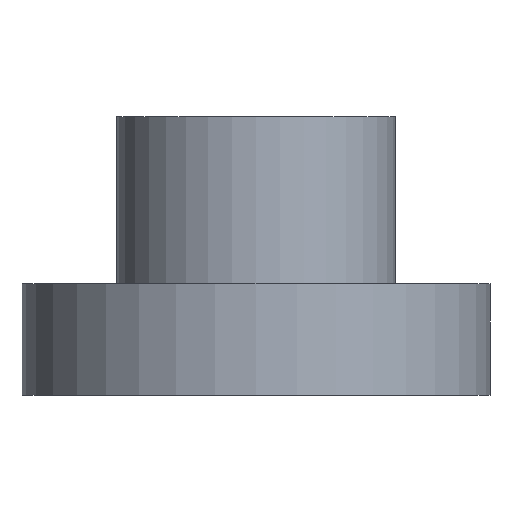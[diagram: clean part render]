
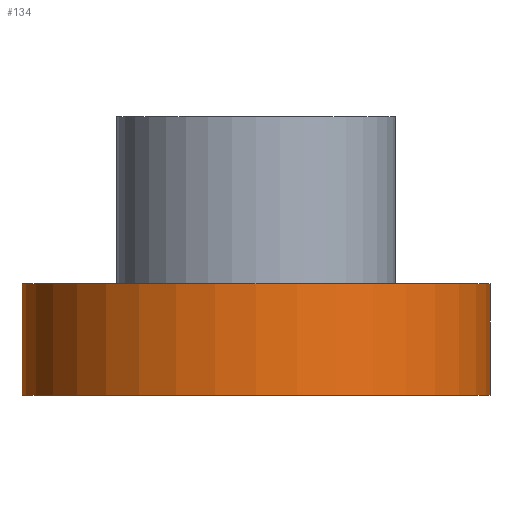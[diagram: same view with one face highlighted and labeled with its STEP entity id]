
A CAD part, front view. The second image highlights one B-rep face of the part: STEP entity #134.
In plain terms, the highlighted cylindrical face has radius 21 mm (diameter 42 mm), a partial arc.
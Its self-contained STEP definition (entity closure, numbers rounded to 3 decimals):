
#45 = PLANE('',#46);
#46 = AXIS2_PLACEMENT_3D('',#47,#48,#49);
#47 = CARTESIAN_POINT('',(13.,0.,0.));
#48 = DIRECTION('',(0.,0.,-1.));
#49 = DIRECTION('',(1.,0.,0.));
#134 = ADVANCED_FACE('',(#135),#149,.T.);
#135 = FACE_BOUND('',#136,.T.);
#136 = EDGE_LOOP('',(#137,#172,#205,#228));
#137 = ORIENTED_EDGE('',*,*,#138,.F.);
#138 = EDGE_CURVE('',#139,#141,#143,.T.);
#139 = VERTEX_POINT('',#140);
#140 = CARTESIAN_POINT('',(21.,0.,10.));
#141 = VERTEX_POINT('',#142);
#142 = CARTESIAN_POINT('',(21.,0.,0.));
#143 = SURFACE_CURVE('',#144,(#148,#160),.PCURVE_S1.);
#144 = LINE('',#145,#146);
#145 = CARTESIAN_POINT('',(21.,0.,5.));
#146 = VECTOR('',#147,1.);
#147 = DIRECTION('',(0.,0.,-1.));
#148 = PCURVE('',#149,#154);
#149 = CYLINDRICAL_SURFACE('',#150,21.);
#150 = AXIS2_PLACEMENT_3D('',#151,#152,#153);
#151 = CARTESIAN_POINT('',(0.,0.,5.));
#152 = DIRECTION('',(0.,0.,-1.));
#153 = DIRECTION('',(1.,0.,0.));
#154 = DEFINITIONAL_REPRESENTATION('',(#155),#159);
#155 = LINE('',#156,#157);
#156 = CARTESIAN_POINT('',(0.,0.));
#157 = VECTOR('',#158,1.);
#158 = DIRECTION('',(0.,1.));
#159 = ( GEOMETRIC_REPRESENTATION_CONTEXT(2) 
PARAMETRIC_REPRESENTATION_CONTEXT() REPRESENTATION_CONTEXT('2D SPACE',''
  ) );
#160 = PCURVE('',#161,#166);
#161 = CYLINDRICAL_SURFACE('',#162,21.);
#162 = AXIS2_PLACEMENT_3D('',#163,#164,#165);
#163 = CARTESIAN_POINT('',(0.,0.,5.));
#164 = DIRECTION('',(0.,0.,-1.));
#165 = DIRECTION('',(1.,0.,0.));
#166 = DEFINITIONAL_REPRESENTATION('',(#167),#171);
#167 = LINE('',#168,#169);
#168 = CARTESIAN_POINT('',(6.283,0.));
#169 = VECTOR('',#170,1.);
#170 = DIRECTION('',(0.,1.));
#171 = ( GEOMETRIC_REPRESENTATION_CONTEXT(2) 
PARAMETRIC_REPRESENTATION_CONTEXT() REPRESENTATION_CONTEXT('2D SPACE',''
  ) );
#172 = ORIENTED_EDGE('',*,*,#173,.T.);
#173 = EDGE_CURVE('',#139,#174,#176,.T.);
#174 = VERTEX_POINT('',#175);
#175 = CARTESIAN_POINT('',(-21.,0.,10.));
#176 = SURFACE_CURVE('',#177,(#182,#189),.PCURVE_S1.);
#177 = CIRCLE('',#178,21.);
#178 = AXIS2_PLACEMENT_3D('',#179,#180,#181);
#179 = CARTESIAN_POINT('',(0.,0.,10.));
#180 = DIRECTION('',(0.,0.,-1.));
#181 = DIRECTION('',(1.,0.,0.));
#182 = PCURVE('',#149,#183);
#183 = DEFINITIONAL_REPRESENTATION('',(#184),#188);
#184 = LINE('',#185,#186);
#185 = CARTESIAN_POINT('',(0.,-5.));
#186 = VECTOR('',#187,1.);
#187 = DIRECTION('',(1.,0.));
#188 = ( GEOMETRIC_REPRESENTATION_CONTEXT(2) 
PARAMETRIC_REPRESENTATION_CONTEXT() REPRESENTATION_CONTEXT('2D SPACE',''
  ) );
#189 = PCURVE('',#190,#195);
#190 = PLANE('',#191);
#191 = AXIS2_PLACEMENT_3D('',#192,#193,#194);
#192 = CARTESIAN_POINT('',(16.75,0.,10.));
#193 = DIRECTION('',(0.,0.,1.));
#194 = DIRECTION('',(-1.,0.,0.));
#195 = DEFINITIONAL_REPRESENTATION('',(#196),#204);
#196 = ( BOUNDED_CURVE() B_SPLINE_CURVE(2,(#197,#198,#199,#200,#201,#202
,#203),.UNSPECIFIED.,.T.,.F.) B_SPLINE_CURVE_WITH_KNOTS((1,2,2,2,2,1),(
    -2.094,0.,2.094,4.189,6.283,
8.378),.UNSPECIFIED.) CURVE() GEOMETRIC_REPRESENTATION_ITEM() 
RATIONAL_B_SPLINE_CURVE((1.,0.5,1.,0.5,1.,0.5,1.)) REPRESENTATION_ITEM(
  '') );
#197 = CARTESIAN_POINT('',(-4.25,0.));
#198 = CARTESIAN_POINT('',(-4.25,36.373));
#199 = CARTESIAN_POINT('',(27.25,18.187));
#200 = CARTESIAN_POINT('',(58.75,0.));
#201 = CARTESIAN_POINT('',(27.25,-18.187));
#202 = CARTESIAN_POINT('',(-4.25,-36.373));
#203 = CARTESIAN_POINT('',(-4.25,0.));
#204 = ( GEOMETRIC_REPRESENTATION_CONTEXT(2) 
PARAMETRIC_REPRESENTATION_CONTEXT() REPRESENTATION_CONTEXT('2D SPACE',''
  ) );
#205 = ORIENTED_EDGE('',*,*,#206,.F.);
#206 = EDGE_CURVE('',#207,#174,#209,.T.);
#207 = VERTEX_POINT('',#208);
#208 = CARTESIAN_POINT('',(-21.,0.,0.)
  );
#209 = SURFACE_CURVE('',#210,(#214,#221),.PCURVE_S1.);
#210 = LINE('',#211,#212);
#211 = CARTESIAN_POINT('',(-21.,0.,5.));
#212 = VECTOR('',#213,1.);
#213 = DIRECTION('',(-0.,0.,1.));
#214 = PCURVE('',#149,#215);
#215 = DEFINITIONAL_REPRESENTATION('',(#216),#220);
#216 = LINE('',#217,#218);
#217 = CARTESIAN_POINT('',(3.142,0.));
#218 = VECTOR('',#219,1.);
#219 = DIRECTION('',(0.,-1.));
#220 = ( GEOMETRIC_REPRESENTATION_CONTEXT(2) 
PARAMETRIC_REPRESENTATION_CONTEXT() REPRESENTATION_CONTEXT('2D SPACE',''
  ) );
#221 = PCURVE('',#161,#222);
#222 = DEFINITIONAL_REPRESENTATION('',(#223),#227);
#223 = LINE('',#224,#225);
#224 = CARTESIAN_POINT('',(3.142,0.));
#225 = VECTOR('',#226,1.);
#226 = DIRECTION('',(0.,-1.));
#227 = ( GEOMETRIC_REPRESENTATION_CONTEXT(2) 
PARAMETRIC_REPRESENTATION_CONTEXT() REPRESENTATION_CONTEXT('2D SPACE',''
  ) );
#228 = ORIENTED_EDGE('',*,*,#229,.F.);
#229 = EDGE_CURVE('',#141,#207,#230,.T.);
#230 = SURFACE_CURVE('',#231,(#236,#243),.PCURVE_S1.);
#231 = CIRCLE('',#232,21.);
#232 = AXIS2_PLACEMENT_3D('',#233,#234,#235);
#233 = CARTESIAN_POINT('',(0.,0.,0.));
#234 = DIRECTION('',(0.,0.,-1.));
#235 = DIRECTION('',(1.,0.,0.));
#236 = PCURVE('',#149,#237);
#237 = DEFINITIONAL_REPRESENTATION('',(#238),#242);
#238 = LINE('',#239,#240);
#239 = CARTESIAN_POINT('',(0.,5.));
#240 = VECTOR('',#241,1.);
#241 = DIRECTION('',(1.,0.));
#242 = ( GEOMETRIC_REPRESENTATION_CONTEXT(2) 
PARAMETRIC_REPRESENTATION_CONTEXT() REPRESENTATION_CONTEXT('2D SPACE',''
  ) );
#243 = PCURVE('',#45,#244);
#244 = DEFINITIONAL_REPRESENTATION('',(#245),#249);
#245 = CIRCLE('',#246,21.);
#246 = AXIS2_PLACEMENT_2D('',#247,#248);
#247 = CARTESIAN_POINT('',(-13.,0.));
#248 = DIRECTION('',(1.,0.));
#249 = ( GEOMETRIC_REPRESENTATION_CONTEXT(2) 
PARAMETRIC_REPRESENTATION_CONTEXT() REPRESENTATION_CONTEXT('2D SPACE',''
  ) );
